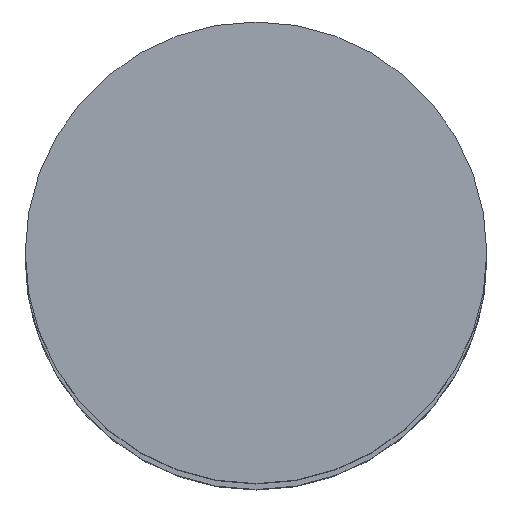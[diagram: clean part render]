
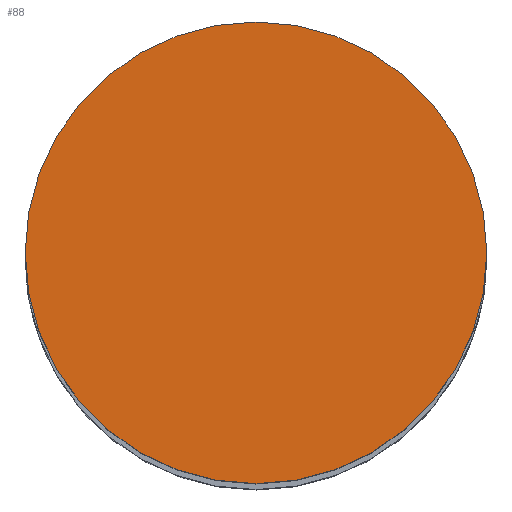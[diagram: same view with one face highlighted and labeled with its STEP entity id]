
A CAD part, top view. The second image highlights one B-rep face of the part: STEP entity #88.
In plain terms, the highlighted planar face has unit normal (0, 0, 1).
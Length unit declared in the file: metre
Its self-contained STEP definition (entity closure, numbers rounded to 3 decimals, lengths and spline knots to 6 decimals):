
#88=ADVANCED_FACE('25:217',(#172),#173,.T.);
#172=FACE_OUTER_BOUND('',#259,.T.);
#173=PLANE('',#260);
#259=EDGE_LOOP('',(#406,#407));
#260=AXIS2_PLACEMENT_3D('',#408,#409,#410);
#406=ORIENTED_EDGE('',*,*,#543,.F.);
#407=ORIENTED_EDGE('',*,*,#536,.F.);
#408=CARTESIAN_POINT('',(0.0,0.0,2.894));
#409=DIRECTION('',(0.0,0.0,1.0));
#410=DIRECTION('',(1.0,0.0,0.0));
#536=EDGE_CURVE('',#647,#649,#650,.F.);
#543=EDGE_CURVE('',#649,#647,#658,.F.);
#647=VERTEX_POINT('',#782);
#649=VERTEX_POINT('',#785);
#650=CIRCLE('',#786,0.0155);
#658=CIRCLE('',#797,0.0155);
#782=CARTESIAN_POINT('',(0.015408,0.000095,2.894));
#785=CARTESIAN_POINT('',(-0.015592,0.000095,2.894));
#786=AXIS2_PLACEMENT_3D('',#907,#908,#909);
#797=AXIS2_PLACEMENT_3D('',#916,#917,#918);
#907=CARTESIAN_POINT('',(-0.000092,0.000095,2.894));
#908=DIRECTION('',(0.0,0.0,1.0));
#909=DIRECTION('',(1.0,0.0,0.0));
#916=CARTESIAN_POINT('',(-0.000092,0.000095,2.894));
#917=DIRECTION('',(0.0,0.0,1.0));
#918=DIRECTION('',(1.0,0.0,0.0));
